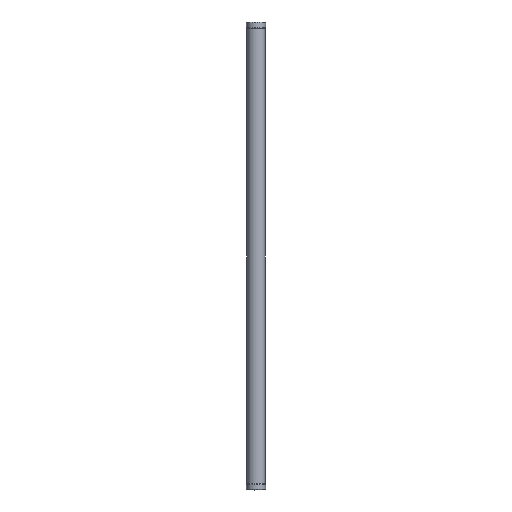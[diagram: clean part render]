
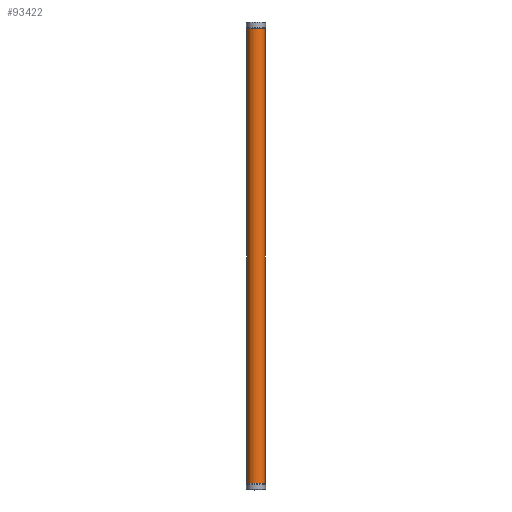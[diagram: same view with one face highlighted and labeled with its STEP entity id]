
A CAD part, front view. The second image highlights one B-rep face of the part: STEP entity #93422.
In plain terms, the highlighted cylindrical face has radius 20 mm (diameter 40 mm), a partial arc.
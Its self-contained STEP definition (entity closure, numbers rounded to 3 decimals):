
#1458 = VERTEX_POINT ( 'NONE', #80276 ) ;
#4818 = CARTESIAN_POINT ( 'NONE',  ( 20.022, 0.59, 514. ) ) ;
#5650 = LINE ( 'NONE', #77308, #45848 ) ;
#7718 = CIRCLE ( 'NONE', #36256, 20. ) ;
#8876 = CARTESIAN_POINT ( 'NONE',  ( 20.022, 0.59, 513.6 ) ) ;
#9652 = ORIENTED_EDGE ( 'NONE', *, *, #17260, .T. ) ;
#13841 = CARTESIAN_POINT ( 'NONE',  ( -19.978, 0.59, 513.6 ) ) ;
#14484 = CIRCLE ( 'NONE', #61507, 20. ) ;
#14494 = DIRECTION ( 'NONE',  ( -1., 0., 0. ) ) ;
#16410 = FACE_OUTER_BOUND ( 'NONE', #57191, .T. ) ;
#17260 = EDGE_CURVE ( 'NONE', #96083, #1458, #7718, .T. ) ;
#19603 = ORIENTED_EDGE ( 'NONE', *, *, #46201, .F. ) ;
#20451 = CARTESIAN_POINT ( 'NONE',  ( 0.022, 0.59, -513.6 ) ) ;
#21755 = CARTESIAN_POINT ( 'NONE',  ( 0.022, 0.59, 514. ) ) ;
#23618 = DIRECTION ( 'NONE',  ( 0., 0., -1. ) ) ;
#24447 = VERTEX_POINT ( 'NONE', #8876 ) ;
#27591 = DIRECTION ( 'NONE',  ( 0., 0., -1. ) ) ;
#28055 = DIRECTION ( 'NONE',  ( 1., 0., 0. ) ) ;
#31638 = ORIENTED_EDGE ( 'NONE', *, *, #95390, .T. ) ;
#36256 = AXIS2_PLACEMENT_3D ( 'NONE', #20451, #73286, #28055 ) ;
#36670 = VERTEX_POINT ( 'NONE', #13841 ) ;
#45848 = VECTOR ( 'NONE', #84611, 1000. ) ;
#46201 = EDGE_CURVE ( 'NONE', #24447, #1458, #75304, .T. ) ;
#47163 = ORIENTED_EDGE ( 'NONE', *, *, #73974, .T. ) ;
#57191 = EDGE_LOOP ( 'NONE', ( #19603, #31638, #47163, #9652 ) ) ;
#61507 = AXIS2_PLACEMENT_3D ( 'NONE', #68872, #23618, #76462 ) ;
#68872 = CARTESIAN_POINT ( 'NONE',  ( 0.022, 0.59, 513.6 ) ) ;
#70715 = CARTESIAN_POINT ( 'NONE',  ( -19.978, 0.59, -513.6 ) ) ;
#72954 = VECTOR ( 'NONE', #27591, 1000. ) ;
#73286 = DIRECTION ( 'NONE',  ( 0., 0., 1. ) ) ;
#73974 = EDGE_CURVE ( 'NONE', #36670, #96083, #5650, .T. ) ;
#75304 = LINE ( 'NONE', #4818, #72954 ) ;
#76462 = DIRECTION ( 'NONE',  ( 1., 0., 0. ) ) ;
#77308 = CARTESIAN_POINT ( 'NONE',  ( -19.978, 0.59, 514. ) ) ;
#78990 = AXIS2_PLACEMENT_3D ( 'NONE', #21755, #89467, #14494 ) ;
#80276 = CARTESIAN_POINT ( 'NONE',  ( 20.022, 0.59, -513.6 ) ) ;
#84611 = DIRECTION ( 'NONE',  ( 0., 0., -1. ) ) ;
#87334 = CYLINDRICAL_SURFACE ( 'NONE', #78990, 20. ) ;
#89467 = DIRECTION ( 'NONE',  ( 0., 0., -1. ) ) ;
#93422 = ADVANCED_FACE ( 'NONE', ( #16410 ), #87334, .T. ) ;
#95390 = EDGE_CURVE ( 'NONE', #24447, #36670, #14484, .T. ) ;
#96083 = VERTEX_POINT ( 'NONE', #70715 ) ;
